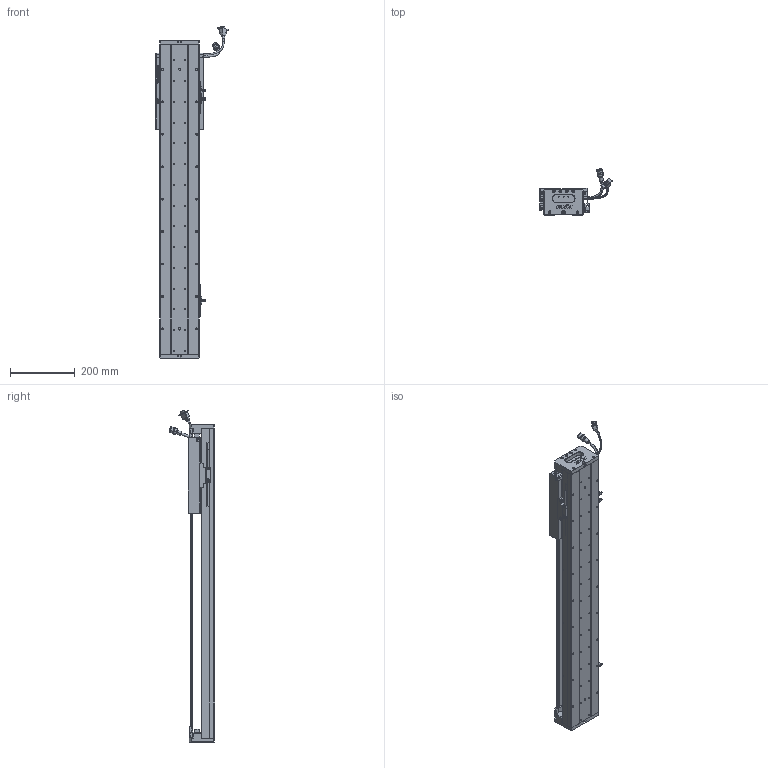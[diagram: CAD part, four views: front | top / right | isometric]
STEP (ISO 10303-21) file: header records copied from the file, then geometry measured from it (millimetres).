
FILE_DESCRIPTION (( 'STEP AP203' ), '1' );
FILE_NAME ('Z3-RY120D-1-L500-B-K.SLDASM_0650.step', '2021-05-17T05:46:16', ( '盈信电脑' ), ( '东莞市道滘镇水果街19号' ), 'SwSTEP 2.0', 'SolidWorks 2016', '' );
FILE_SCHEMA (( 'CONFIG_CONTROL_DESIGN' ));
Length unit declared in the file: millimetre
Products named in the file (37): SCALE-Part-1; 672嫖萇羲壽假蚾釱; Z3-RY120-500-倰第菁釱_0650; Z3-RY120-L500詩湍100mm遵_0650; 080黍杅芛假蚾釱21遴; PBU_SHEET; Z-120詩湍傷裔啣; LABEL-Part-1; 140蚥薯蝶輸; PSLH080_PSLF2; SCREW-M1.6; HOLDER0; COVER-Part-1; 榋妏寠巭燃_暯_M2_2; RY100FB-遵嫖萇覜茼え; SCREW-M1.7-1; SCREW-M1.6-1; Z3-RY120铝滑块（21款）; 140雄赽晤鎢ん堤盄; Z-RY120D詩湍奻揤裔; SCREW-M1.7; HARNESS; Z3-RY120D-1-L500-B-K.SLDASM_0650; SHIELDPLATE; COVER; SCALE; Z-RY120D詩湍狟揤裔; 覜茼ん672; LABEL; HARNESS-Part-2; SCREW-M1.6-3; SCALE-Part-2; SEAL-Part-1; SCREW-M1.6-2; HARNESS-Part-1; 120-Z-臏賑輸盄裔(21遴); SEAL
Assembly tree (43 placements, depth 4):
  Z3-RY120D-1-L500-B-K.SLDASM_0650
    Z3-RY120-500-倰第菁釱_0650
    覜茼ん672  x3
    672嫖萇羲壽假蚾釱  x2
    Z3-RY120铝滑块（21款）
    PSLH080_PSLF2
      SCALE
        SCALE-Part-1
        SCALE-Part-2
      HARNESS
        HARNESS-Part-1
        HARNESS-Part-2
      LABEL
        LABEL-Part-1
      COVER
        COVER-Part-1
      SEAL
        SEAL-Part-1
      榋妏寠巭燃_暯_M2_2
      SHIELDPLATE
      SCREW-M1.7
      SCREW-M1.7-1
      PBU_SHEET
      SCREW-M1.6
      SCREW-M1.6-1
      SCREW-M1.6-2
      SCREW-M1.6-3
      HOLDER0
    080黍杅芛假蚾釱21遴
    120-Z-臏賑輸盄裔(21遴)
    140雄赽晤鎢ん堤盄
    140蚥薯蝶輸  x2
    RY100FB-遵嫖萇覜茼え
    Z-120詩湍傷裔啣  x2
    Z-RY120D詩湍奻揤裔  x2
    Z-RY120D詩湍狟揤裔  x2
    Z3-RY120-L500詩湍100mm遵_0650
Bounding box: 222.88 x 140.94 x 1024 mm (x, y, z)
Volume: 2966055.4 mm3; surface area: 979061.8 mm2
Topology: 38 solids, 38 shells, 2757 faces, 7413 edges, 4680 vertices
Faces by surface type: cylinder 1249, plane 1112, cone 274, torus 69, bspline 53
Entity records: 81978 total; most frequent: CARTESIAN_POINT 21519, ORIENTED_EDGE 11802, DIRECTION 11695, EDGE_CURVE 5901, AXIS2_PLACEMENT_3D 4278, VERTEX_POINT 3800, LINE 3139, VECTOR 3139
